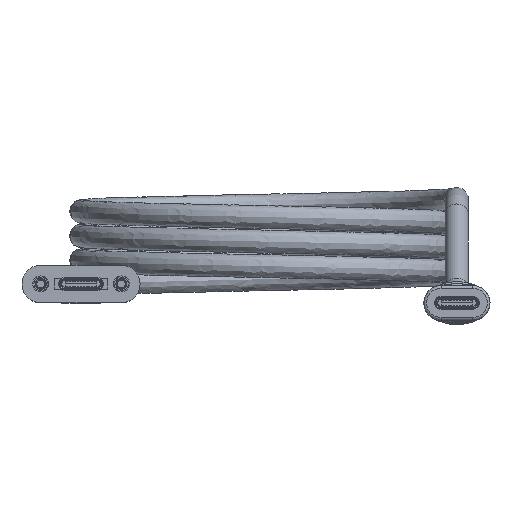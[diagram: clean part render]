
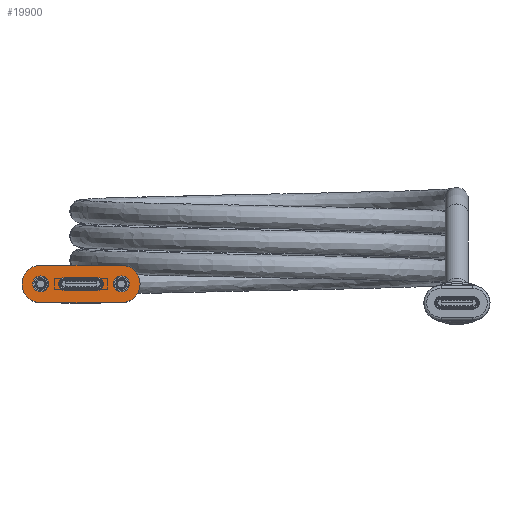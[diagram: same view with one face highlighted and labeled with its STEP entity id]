
A CAD part, top view. The second image highlights one B-rep face of the part: STEP entity #19900.
In plain terms, the highlighted planar face has unit normal (0, 0, 1).
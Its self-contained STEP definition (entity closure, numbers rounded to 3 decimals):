
#239=FACE_BOUND('',#2103,.T.);
#240=FACE_BOUND('',#2104,.T.);
#241=FACE_BOUND('',#2105,.T.);
#356=PLANE('',#21045);
#1041=FACE_OUTER_BOUND('',#2102,.T.);
#2102=EDGE_LOOP('',(#13845,#13846,#13847,#13848));
#2103=EDGE_LOOP('',(#13849,#13850,#13851,#13852));
#2104=EDGE_LOOP('',(#13853));
#2105=EDGE_LOOP('',(#13854));
#3151=CIRCLE('',#21046,3.5);
#3152=CIRCLE('',#21047,3.5);
#3153=CIRCLE('',#21048,1.2);
#3154=CIRCLE('',#21049,1.2);
#3155=CIRCLE('',#21050,1.5);
#3156=CIRCLE('',#21051,1.5);
#4082=LINE('',#29166,#6277);
#4083=LINE('',#29170,#6278);
#4084=LINE('',#29174,#6279);
#4085=LINE('',#29178,#6280);
#6277=VECTOR('',#23298,10.);
#6278=VECTOR('',#23301,10.);
#6279=VECTOR('',#23304,10.);
#6280=VECTOR('',#23307,10.);
#8444=VERTEX_POINT('',#29164);
#8445=VERTEX_POINT('',#29165);
#8446=VERTEX_POINT('',#29167);
#8447=VERTEX_POINT('',#29169);
#8448=VERTEX_POINT('',#29172);
#8449=VERTEX_POINT('',#29173);
#8450=VERTEX_POINT('',#29175);
#8451=VERTEX_POINT('',#29177);
#8452=VERTEX_POINT('',#29180);
#8453=VERTEX_POINT('',#29182);
#10573=EDGE_CURVE('',#8444,#8445,#4082,.T.);
#10574=EDGE_CURVE('',#8445,#8446,#3151,.T.);
#10575=EDGE_CURVE('',#8447,#8446,#4083,.T.);
#10576=EDGE_CURVE('',#8447,#8444,#3152,.T.);
#10577=EDGE_CURVE('',#8448,#8449,#4084,.T.);
#10578=EDGE_CURVE('',#8449,#8450,#3153,.T.);
#10579=EDGE_CURVE('',#8450,#8451,#4085,.T.);
#10580=EDGE_CURVE('',#8451,#8448,#3154,.T.);
#10581=EDGE_CURVE('',#8452,#8452,#3155,.T.);
#10582=EDGE_CURVE('',#8453,#8453,#3156,.T.);
#13845=ORIENTED_EDGE('',*,*,#10573,.T.);
#13846=ORIENTED_EDGE('',*,*,#10574,.T.);
#13847=ORIENTED_EDGE('',*,*,#10575,.F.);
#13848=ORIENTED_EDGE('',*,*,#10576,.T.);
#13849=ORIENTED_EDGE('',*,*,#10577,.T.);
#13850=ORIENTED_EDGE('',*,*,#10578,.T.);
#13851=ORIENTED_EDGE('',*,*,#10579,.T.);
#13852=ORIENTED_EDGE('',*,*,#10580,.T.);
#13853=ORIENTED_EDGE('',*,*,#10581,.T.);
#13854=ORIENTED_EDGE('',*,*,#10582,.T.);
#19900=ADVANCED_FACE('',(#1041,#239,#240,#241),#356,.T.);
#21045=AXIS2_PLACEMENT_3D('',#29163,#23296,#23297);
#21046=AXIS2_PLACEMENT_3D('',#29168,#23299,#23300);
#21047=AXIS2_PLACEMENT_3D('',#29171,#23302,#23303);
#21048=AXIS2_PLACEMENT_3D('',#29176,#23305,#23306);
#21049=AXIS2_PLACEMENT_3D('',#29179,#23308,#23309);
#21050=AXIS2_PLACEMENT_3D('',#29181,#23310,#23311);
#21051=AXIS2_PLACEMENT_3D('',#29183,#23312,#23313);
#23296=DIRECTION('center_axis',(0.,0.,
1.));
#23297=DIRECTION('ref_axis',(-1.,0.,0.));
#23298=DIRECTION('',(-1.,0.,0.));
#23299=DIRECTION('center_axis',(0.,0.,
1.));
#23300=DIRECTION('ref_axis',(0.,1.,0.));
#23301=DIRECTION('',(-1.,0.,0.));
#23302=DIRECTION('center_axis',(0.,0.,
1.));
#23303=DIRECTION('ref_axis',(0.,-1.,0.));
#23304=DIRECTION('',(1.,0.,0.));
#23305=DIRECTION('center_axis',(0.,0.,
-1.));
#23306=DIRECTION('ref_axis',(1.,0.,0.));
#23307=DIRECTION('',(-1.,0.,0.));
#23308=DIRECTION('center_axis',(0.,0.,
-1.));
#23309=DIRECTION('ref_axis',(-1.,0.,0.));
#23310=DIRECTION('center_axis',(0.,0.,
-1.));
#23311=DIRECTION('ref_axis',(1.,0.,0.));
#23312=DIRECTION('center_axis',(0.,0.,
-1.));
#23313=DIRECTION('ref_axis',(1.,0.,0.));
#29163=CARTESIAN_POINT('Origin',(5.132,3.7,27.7));
#29164=CARTESIAN_POINT('',(7.632,3.7,27.7));
#29165=CARTESIAN_POINT('',(-7.368,3.7,27.7));
#29166=CARTESIAN_POINT('',(7.632,3.7,27.7));
#29167=CARTESIAN_POINT('',(-7.368,-3.3,27.7));
#29168=CARTESIAN_POINT('Origin',(-7.368,0.2,27.7));
#29169=CARTESIAN_POINT('',(7.632,-3.3,27.7));
#29170=CARTESIAN_POINT('',(5.132,-3.3,27.7));
#29171=CARTESIAN_POINT('Origin',(7.632,0.2,27.7));
#29172=CARTESIAN_POINT('',(-2.818,1.4,27.7));
#29173=CARTESIAN_POINT('',(3.082,1.4,27.7));
#29174=CARTESIAN_POINT('',(1.157,1.4,27.7));
#29175=CARTESIAN_POINT('',(3.082,-1.,27.7));
#29176=CARTESIAN_POINT('Origin',(3.082,0.2,27.7));
#29177=CARTESIAN_POINT('',(-2.818,-1.,27.7));
#29178=CARTESIAN_POINT('',(1.157,-1.,27.7));
#29179=CARTESIAN_POINT('Origin',(-2.818,0.2,27.7));
#29180=CARTESIAN_POINT('',(6.132,0.2,27.7));
#29181=CARTESIAN_POINT('Origin',(7.632,0.2,27.7));
#29182=CARTESIAN_POINT('',(-8.868,0.2,27.7));
#29183=CARTESIAN_POINT('Origin',(-7.368,0.2,27.7));
